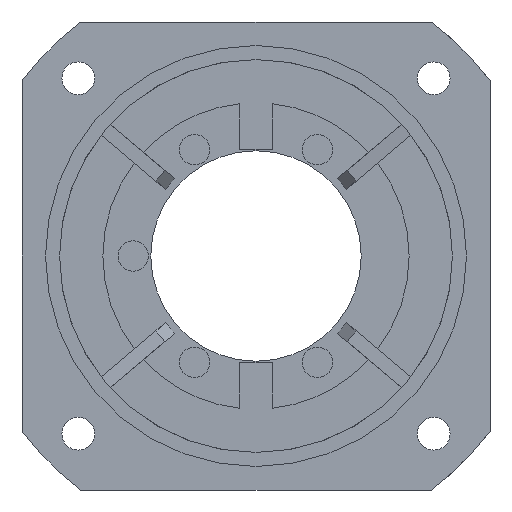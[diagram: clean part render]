
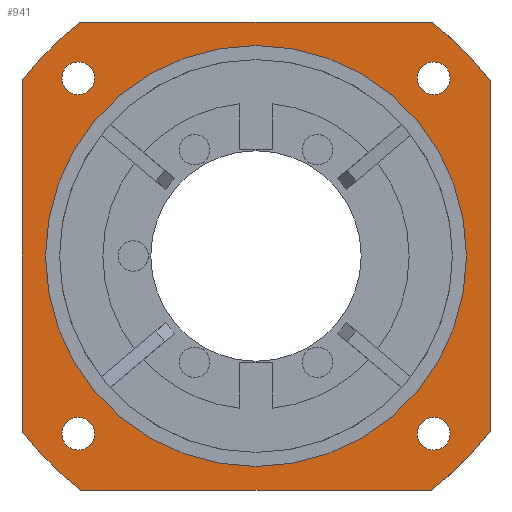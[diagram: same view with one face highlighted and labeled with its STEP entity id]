
A CAD part, left-side view. The second image highlights one B-rep face of the part: STEP entity #941.
In plain terms, the highlighted planar face has unit normal (-1, 0, 0) as drawn and (1, 0, 0) by its records, which use the part's own axes.
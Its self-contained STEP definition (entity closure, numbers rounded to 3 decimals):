
#31=FACE_BOUND('',#1173,.T.);
#32=FACE_BOUND('',#1174,.T.);
#33=FACE_BOUND('',#1175,.T.);
#34=FACE_BOUND('',#1176,.T.);
#35=FACE_BOUND('',#1177,.T.);
#941=ADVANCED_FACE('',(#1050,#31,#32,#33,#34,#35),#2749,.T.);
#1050=FACE_OUTER_BOUND('',#1172,.T.);
#1172=EDGE_LOOP('',(#1502,#1503,#1504,#1505,#1506,#1507,#1508,#1509));
#1173=EDGE_LOOP('',(#1510,#1511));
#1174=EDGE_LOOP('',(#1512,#1513));
#1175=EDGE_LOOP('',(#1514,#1515));
#1176=EDGE_LOOP('',(#1516,#1517));
#1177=EDGE_LOOP('',(#1518,#1519));
#1502=ORIENTED_EDGE('',*,*,#1997,.F.);
#1503=ORIENTED_EDGE('',*,*,#1975,.T.);
#1504=ORIENTED_EDGE('',*,*,#1847,.F.);
#1505=ORIENTED_EDGE('',*,*,#1855,.T.);
#1506=ORIENTED_EDGE('',*,*,#1860,.F.);
#1507=ORIENTED_EDGE('',*,*,#1978,.T.);
#1508=ORIENTED_EDGE('',*,*,#1981,.F.);
#1509=ORIENTED_EDGE('',*,*,#1983,.T.);
#1510=ORIENTED_EDGE('',*,*,#1993,.T.);
#1511=ORIENTED_EDGE('',*,*,#2115,.T.);
#1512=ORIENTED_EDGE('',*,*,#1990,.T.);
#1513=ORIENTED_EDGE('',*,*,#2112,.T.);
#1514=ORIENTED_EDGE('',*,*,#1987,.T.);
#1515=ORIENTED_EDGE('',*,*,#2109,.T.);
#1516=ORIENTED_EDGE('',*,*,#1984,.T.);
#1517=ORIENTED_EDGE('',*,*,#2106,.T.);
#1518=ORIENTED_EDGE('',*,*,#1999,.T.);
#1519=ORIENTED_EDGE('',*,*,#2119,.T.);
#1847=EDGE_CURVE('',#2539,#2540,#2143,.T.);
#1855=EDGE_CURVE('',#2539,#2547,#2358,.T.);
#1860=EDGE_CURVE('',#2551,#2547,#2146,.T.);
#1975=EDGE_CURVE('',#2681,#2540,#2435,.T.);
#1978=EDGE_CURVE('',#2551,#2682,#2438,.T.);
#1981=EDGE_CURVE('',#2683,#2682,#2189,.T.);
#1983=EDGE_CURVE('',#2683,#2684,#2441,.T.);
#1984=EDGE_CURVE('',#2685,#2710,#2190,.T.);
#1987=EDGE_CURVE('',#2686,#2712,#2192,.T.);
#1990=EDGE_CURVE('',#2687,#2714,#2194,.T.);
#1993=EDGE_CURVE('',#2688,#2716,#2196,.T.);
#1997=EDGE_CURVE('',#2681,#2684,#2199,.T.);
#1999=EDGE_CURVE('',#2689,#2718,#2201,.T.);
#2106=EDGE_CURVE('',#2710,#2685,#2224,.T.);
#2109=EDGE_CURVE('',#2712,#2686,#2226,.T.);
#2112=EDGE_CURVE('',#2714,#2687,#2228,.T.);
#2115=EDGE_CURVE('',#2716,#2688,#2230,.T.);
#2119=EDGE_CURVE('',#2718,#2689,#2233,.T.);
#2143=TRIMMED_CURVE($,#2247,(#3963),(#3964),.T.,.CARTESIAN.);
#2146=TRIMMED_CURVE($,#2250,(#3992),(#3993),.T.,.CARTESIAN.);
#2189=TRIMMED_CURVE($,#2293,(#4277),(#4278),.T.,.CARTESIAN.);
#2190=TRIMMED_CURVE($,#2294,(#4284),(#4285),.T.,.CARTESIAN.);
#2192=TRIMMED_CURVE($,#2296,(#4292),(#4293),.T.,.CARTESIAN.);
#2194=TRIMMED_CURVE($,#2298,(#4300),(#4301),.T.,.CARTESIAN.);
#2196=TRIMMED_CURVE($,#2300,(#4308),(#4309),.T.,.CARTESIAN.);
#2199=TRIMMED_CURVE($,#2303,(#4319),(#4320),.T.,.CARTESIAN.);
#2201=TRIMMED_CURVE($,#2305,(#4325),(#4326),.T.,.CARTESIAN.);
#2224=TRIMMED_CURVE($,#2328,(#4598),(#4599),.T.,.CARTESIAN.);
#2226=TRIMMED_CURVE($,#2330,(#4606),(#4607),.T.,.CARTESIAN.);
#2228=TRIMMED_CURVE($,#2332,(#4614),(#4615),.T.,.CARTESIAN.);
#2230=TRIMMED_CURVE($,#2334,(#4622),(#4623),.T.,.CARTESIAN.);
#2233=TRIMMED_CURVE($,#2337,(#4633),(#4634),.T.,.CARTESIAN.);
#2247=CIRCLE('',#3122,125.);
#2250=CIRCLE('',#3125,125.);
#2293=CIRCLE('',#3168,125.);
#2294=CIRCLE('',#3169,7.);
#2296=CIRCLE('',#3171,7.);
#2298=CIRCLE('',#3173,7.);
#2300=CIRCLE('',#3175,7.);
#2303=CIRCLE('',#3178,125.);
#2305=CIRCLE('',#3180,90.);
#2328=CIRCLE('',#3203,7.);
#2330=CIRCLE('',#3205,7.);
#2332=CIRCLE('',#3207,7.);
#2334=CIRCLE('',#3209,7.);
#2337=CIRCLE('',#3212,90.);
#2358=B_SPLINE_CURVE_WITH_KNOTS('',1,(#3980,#3981),.UNSPECIFIED.,.F.,.F.,
(2,2),(-149.813,0.),.UNSPECIFIED.);
#2435=B_SPLINE_CURVE_WITH_KNOTS('',1,(#4263,#4264),.UNSPECIFIED.,.F.,.F.,
(2,2),(-149.813,0.),.UNSPECIFIED.);
#2438=B_SPLINE_CURVE_WITH_KNOTS('',1,(#4269,#4270),.UNSPECIFIED.,.F.,.F.,
(2,2),(-149.813,0.),.UNSPECIFIED.);
#2441=B_SPLINE_CURVE_WITH_KNOTS('',1,(#4281,#4282),.UNSPECIFIED.,.F.,.F.,
(2,2),(-149.813,0.),.UNSPECIFIED.);
#2539=VERTEX_POINT('',#3762);
#2540=VERTEX_POINT('',#3763);
#2547=VERTEX_POINT('',#3770);
#2551=VERTEX_POINT('',#3774);
#2681=VERTEX_POINT('',#3904);
#2682=VERTEX_POINT('',#3905);
#2683=VERTEX_POINT('',#3906);
#2684=VERTEX_POINT('',#3907);
#2685=VERTEX_POINT('',#3908);
#2686=VERTEX_POINT('',#3909);
#2687=VERTEX_POINT('',#3910);
#2688=VERTEX_POINT('',#3911);
#2689=VERTEX_POINT('',#3912);
#2710=VERTEX_POINT('',#3933);
#2712=VERTEX_POINT('',#3935);
#2714=VERTEX_POINT('',#3937);
#2716=VERTEX_POINT('',#3939);
#2718=VERTEX_POINT('',#3941);
#2749=PLANE('',#3049);
#3049=AXIS2_PLACEMENT_3D('',#3579,#3262,$);
#3122=AXIS2_PLACEMENT_3D($,#3962,#3336,#3337);
#3125=AXIS2_PLACEMENT_3D($,#3991,#3342,#3343);
#3168=AXIS2_PLACEMENT_3D($,#4276,#3428,#3429);
#3169=AXIS2_PLACEMENT_3D($,#4283,#3430,#3431);
#3171=AXIS2_PLACEMENT_3D($,#4291,#3434,#3435);
#3173=AXIS2_PLACEMENT_3D($,#4299,#3438,#3439);
#3175=AXIS2_PLACEMENT_3D($,#4307,#3442,#3443);
#3178=AXIS2_PLACEMENT_3D($,#4318,#3448,#3449);
#3180=AXIS2_PLACEMENT_3D($,#4324,#3452,#3453);
#3203=AXIS2_PLACEMENT_3D($,#4597,#3498,#3499);
#3205=AXIS2_PLACEMENT_3D($,#4605,#3502,#3503);
#3207=AXIS2_PLACEMENT_3D($,#4613,#3506,#3507);
#3209=AXIS2_PLACEMENT_3D($,#4621,#3510,#3511);
#3212=AXIS2_PLACEMENT_3D($,#4632,#3516,#3517);
#3262=DIRECTION('',(1.,0.,0.));
#3336=DIRECTION('',(-1.,0.,0.));
#3337=DIRECTION('',(0.,-0.801,0.599));
#3342=DIRECTION('',(-1.,0.,0.));
#3343=DIRECTION('',(0.,-0.599,-0.801));
#3428=DIRECTION('',(-1.,0.,0.));
#3429=DIRECTION('',(0.,0.801,-0.599));
#3430=DIRECTION('',(-1.,0.,0.));
#3431=DIRECTION('',(0.,0.,-1.));
#3434=DIRECTION('',(-1.,0.,0.));
#3435=DIRECTION('',(0.,0.,-1.));
#3438=DIRECTION('',(-1.,0.,0.));
#3439=DIRECTION('',(0.,0.,-1.));
#3442=DIRECTION('',(-1.,0.,0.));
#3443=DIRECTION('',(0.,0.,-1.));
#3448=DIRECTION('',(-1.,0.,0.));
#3449=DIRECTION('',(0.,0.599,0.801));
#3452=DIRECTION('',(-1.,0.,0.));
#3453=DIRECTION('',(0.,0.,-1.));
#3498=DIRECTION('',(-1.,0.,0.));
#3499=DIRECTION('',(0.,0.,1.));
#3502=DIRECTION('',(-1.,0.,0.));
#3503=DIRECTION('',(0.,0.,1.));
#3506=DIRECTION('',(-1.,0.,0.));
#3507=DIRECTION('',(0.,0.,1.));
#3510=DIRECTION('',(-1.,0.,0.));
#3511=DIRECTION('',(0.,0.,1.));
#3516=DIRECTION('',(-1.,0.,0.));
#3517=DIRECTION('',(0.,0.,1.));
#3579=CARTESIAN_POINT('',(22.,-120.084,120.084));
#3762=CARTESIAN_POINT('',(22.,-100.07,74.907));
#3763=CARTESIAN_POINT('',(22.,-74.907,100.07));
#3770=CARTESIAN_POINT('',(22.,-100.07,-74.907));
#3774=CARTESIAN_POINT('',(22.,-74.907,-100.07));
#3904=CARTESIAN_POINT('',(22.,74.907,100.07));
#3905=CARTESIAN_POINT('',(22.,74.907,-100.07));
#3906=CARTESIAN_POINT('',(22.,100.07,-74.907));
#3907=CARTESIAN_POINT('',(22.,100.07,74.907));
#3908=CARTESIAN_POINT('',(22.,76.014,-83.014));
#3909=CARTESIAN_POINT('',(22.,-76.014,-83.014));
#3910=CARTESIAN_POINT('',(22.,76.014,69.014));
#3911=CARTESIAN_POINT('',(22.,-76.014,69.014));
#3912=CARTESIAN_POINT('',(22.,0.,-90.));
#3933=CARTESIAN_POINT('',(22.,76.014,-69.014));
#3935=CARTESIAN_POINT('',(22.,-76.014,-69.014));
#3937=CARTESIAN_POINT('',(22.,76.014,83.014));
#3939=CARTESIAN_POINT('',(22.,-76.014,83.014));
#3941=CARTESIAN_POINT('',(22.,0.,90.));
#3962=CARTESIAN_POINT('',(22.,0.,0.));
#3963=CARTESIAN_POINT('',(22.,-100.07,74.907));
#3964=CARTESIAN_POINT('',(22.,-74.907,100.07));
#3980=CARTESIAN_POINT('',(22.,-100.07,74.907));
#3981=CARTESIAN_POINT('',(22.,-100.07,-74.907));
#3991=CARTESIAN_POINT('',(22.,0.,0.));
#3992=CARTESIAN_POINT('',(22.,-74.907,-100.07));
#3993=CARTESIAN_POINT('',(22.,-100.07,-74.907));
#4263=CARTESIAN_POINT('',(22.,74.907,100.07));
#4264=CARTESIAN_POINT('',(22.,-74.907,100.07));
#4269=CARTESIAN_POINT('',(22.,-74.907,-100.07));
#4270=CARTESIAN_POINT('',(22.,74.907,-100.07));
#4276=CARTESIAN_POINT('',(22.,0.,0.));
#4277=CARTESIAN_POINT('',(22.,100.07,-74.907));
#4278=CARTESIAN_POINT('',(22.,74.907,-100.07));
#4281=CARTESIAN_POINT('',(22.,100.07,-74.907));
#4282=CARTESIAN_POINT('',(22.,100.07,74.907));
#4283=CARTESIAN_POINT('',(22.,76.014,-76.014));
#4284=CARTESIAN_POINT('',(22.,76.014,-83.014));
#4285=CARTESIAN_POINT('',(22.,76.014,-69.014));
#4291=CARTESIAN_POINT('',(22.,-76.014,-76.014));
#4292=CARTESIAN_POINT('',(22.,-76.014,-83.014));
#4293=CARTESIAN_POINT('',(22.,-76.014,-69.014));
#4299=CARTESIAN_POINT('',(22.,76.014,76.014));
#4300=CARTESIAN_POINT('',(22.,76.014,69.014));
#4301=CARTESIAN_POINT('',(22.,76.014,83.014));
#4307=CARTESIAN_POINT('',(22.,-76.014,76.014));
#4308=CARTESIAN_POINT('',(22.,-76.014,69.014));
#4309=CARTESIAN_POINT('',(22.,-76.014,83.014));
#4318=CARTESIAN_POINT('',(22.,0.,0.));
#4319=CARTESIAN_POINT('',(22.,74.907,100.07));
#4320=CARTESIAN_POINT('',(22.,100.07,74.907));
#4324=CARTESIAN_POINT('',(22.,0.,0.));
#4325=CARTESIAN_POINT('',(22.,0.,-90.));
#4326=CARTESIAN_POINT('',(22.,0.,90.));
#4597=CARTESIAN_POINT('',(22.,76.014,-76.014));
#4598=CARTESIAN_POINT('',(22.,76.014,-69.014));
#4599=CARTESIAN_POINT('',(22.,76.014,-83.014));
#4605=CARTESIAN_POINT('',(22.,-76.014,-76.014));
#4606=CARTESIAN_POINT('',(22.,-76.014,-69.014));
#4607=CARTESIAN_POINT('',(22.,-76.014,-83.014));
#4613=CARTESIAN_POINT('',(22.,76.014,76.014));
#4614=CARTESIAN_POINT('',(22.,76.014,83.014));
#4615=CARTESIAN_POINT('',(22.,76.014,69.014));
#4621=CARTESIAN_POINT('',(22.,-76.014,76.014));
#4622=CARTESIAN_POINT('',(22.,-76.014,83.014));
#4623=CARTESIAN_POINT('',(22.,-76.014,69.014));
#4632=CARTESIAN_POINT('',(22.,0.,0.));
#4633=CARTESIAN_POINT('',(22.,0.,90.));
#4634=CARTESIAN_POINT('',(22.,0.,-90.));
